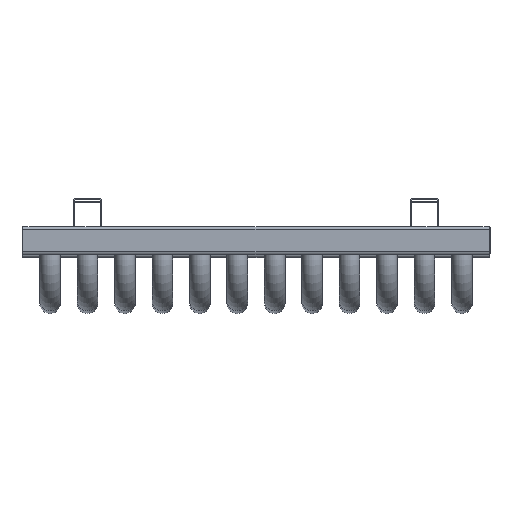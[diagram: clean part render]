
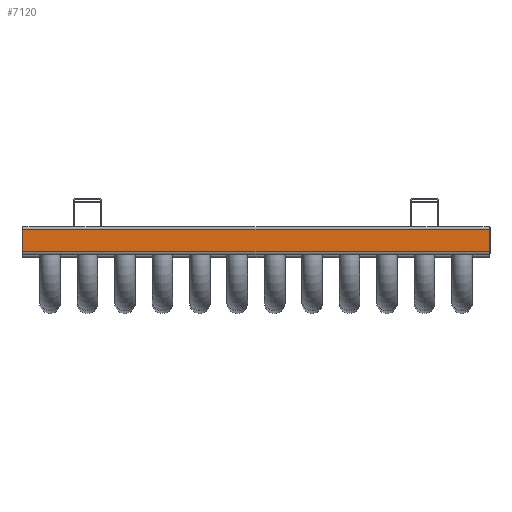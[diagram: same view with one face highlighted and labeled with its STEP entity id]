
A CAD part, top view. The second image highlights one B-rep face of the part: STEP entity #7120.
In plain terms, the highlighted planar face has unit normal (0, 0, 1).
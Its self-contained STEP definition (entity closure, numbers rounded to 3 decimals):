
#3825=CARTESIAN_POINT('',(-249.,-12.,1800.));
#3826=VERTEX_POINT('',#3825);
#3893=CARTESIAN_POINT('',(-249.,12.,1800.));
#3894=VERTEX_POINT('',#3893);
#3911=CARTESIAN_POINT('',(-249.,-12.,1800.));
#3912=DIRECTION('',(0.0,1.0,0.0));
#3913=VECTOR('',#3912,24.);
#3914=LINE('',#3911,#3913);
#3915=EDGE_CURVE('',#3826,#3894,#3914,.T.);
#4221=CARTESIAN_POINT('',(249.,-12.,1800.));
#4222=VERTEX_POINT('',#4221);
#4253=CARTESIAN_POINT('',(249.,12.,1800.));
#4254=VERTEX_POINT('',#4253);
#4295=CARTESIAN_POINT('',(249.,12.,1800.));
#4296=DIRECTION('',(0.0,-1.0,0.0));
#4297=VECTOR('',#4296,24.0);
#4298=LINE('',#4295,#4297);
#4299=EDGE_CURVE('',#4254,#4222,#4298,.T.);
#7084=CARTESIAN_POINT('',(249.,12.,1800.));
#7085=DIRECTION('',(-1.0,0.0,0.0));
#7086=VECTOR('',#7085,498.0);
#7087=LINE('',#7084,#7086);
#7088=EDGE_CURVE('',#4254,#3894,#7087,.T.);
#7104=CARTESIAN_POINT('',(248.5,12.,1800.));
#7105=DIRECTION('',(0.0,0.0,1.0));
#7106=DIRECTION('',(-1.0,0.0,0.0));
#7107=AXIS2_PLACEMENT_3D('',#7104,#7105,#7106);
#7108=PLANE('',#7107);
#7109=CARTESIAN_POINT('',(249.,-12.,1800.));
#7110=DIRECTION('',(-1.0,0.0,0.0));
#7111=VECTOR('',#7110,498.0);
#7112=LINE('',#7109,#7111);
#7113=EDGE_CURVE('',#4222,#3826,#7112,.T.);
#7114=ORIENTED_EDGE('',*,*,#7113,.F.);
#7115=ORIENTED_EDGE('',*,*,#4299,.F.);
#7116=ORIENTED_EDGE('',*,*,#7088,.T.);
#7117=ORIENTED_EDGE('',*,*,#3915,.F.);
#7118=EDGE_LOOP('',(#7114,#7115,#7116,#7117));
#7119=FACE_OUTER_BOUND('',#7118,.T.);
#7120=ADVANCED_FACE('',(#7119),#7108,.T.);
